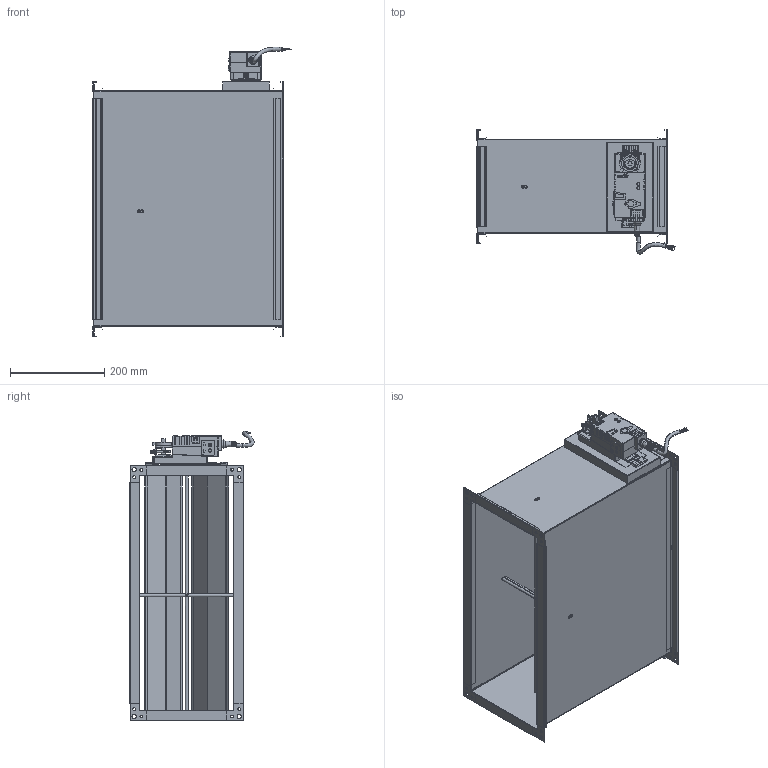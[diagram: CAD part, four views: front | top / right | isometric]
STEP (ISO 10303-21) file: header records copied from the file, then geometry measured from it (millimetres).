
FILE_DESCRIPTION (( 'STEP AP214' ), '1' );
FILE_NAME ('VAV-S500200.STEP', '2025-05-07T13:43:44', ( '' ), ( '' ), 'SwSTEP 2.0', 'SolidWorks 2025', '' );
FILE_SCHEMA (( 'AUTOMOTIVE_DESIGN' ));
Length unit declared in the file: millimetre
Products named in the file (1): VAV-S500200
Bounding box: 420.02 x 263.61 x 613.69 mm (x, y, z)
Surface area: 1991372.1 mm2 (no closed solid volume)
Topology: 0 solids, 58 shells, 2076 faces, 5346 edges, 3396 vertices
Faces by surface type: plane 1523, cylinder 500, bspline 24, sphere 18, cone 10, torus 1
Full cylindrical faces by diameter (mm): 1 x4, 4 x8, 6 x1, 6.044 x6, 6.105 x6, 8 x1, 9 x4, 11 x1, 20 x1, 21 x2
Entity records: 91028 total; most frequent: CARTESIAN_POINT 41674, ORIENTED_EDGE 10473, DIRECTION 6676, EDGE_CURVE 5260, VERTEX_POINT 3367, B_SPLINE_CURVE_WITH_KNOTS 3166, AXIS2_PLACEMENT_3D 2561, EDGE_LOOP 2276
